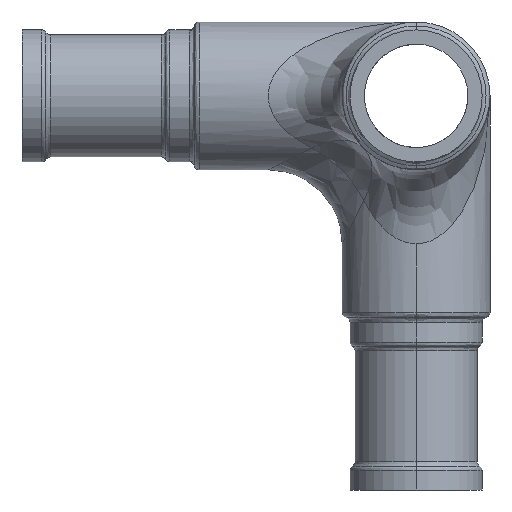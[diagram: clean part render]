
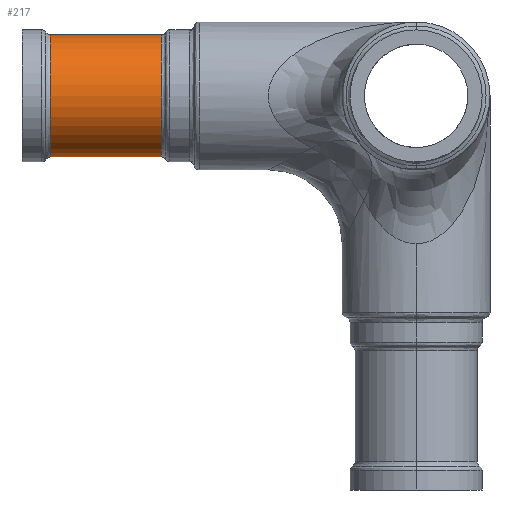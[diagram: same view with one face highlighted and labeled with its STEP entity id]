
A CAD part, left-side view. The second image highlights one B-rep face of the part: STEP entity #217.
In plain terms, the highlighted cylindrical face has radius 12.4 mm (diameter 24.8 mm), a partial arc.
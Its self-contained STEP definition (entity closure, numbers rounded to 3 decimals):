
#15 = ORIENTED_EDGE ( 'NONE', *, *, #2824, .T. ) ;
#22 = CARTESIAN_POINT ( 'NONE',  ( 0., 74.268, 32.6 ) ) ;
#60 = EDGE_CURVE ( 'NONE', #2698, #256, #2432, .T. ) ;
#215 = AXIS2_PLACEMENT_3D ( 'NONE', #2602, #2936, #1380 ) ;
#217 = ADVANCED_FACE ( 'NONE', ( #4170 ), #1353, .T. ) ;
#256 = VERTEX_POINT ( 'NONE', #22 ) ;
#380 = VECTOR ( 'NONE', #2028, 1000. ) ;
#465 = LINE ( 'NONE', #3128, #380 ) ;
#622 = VECTOR ( 'NONE', #2381, 1000. ) ;
#1093 = ORIENTED_EDGE ( 'NONE', *, *, #3378, .T. ) ;
#1121 = DIRECTION ( 'NONE',  ( 0., 0., 1. ) ) ;
#1199 = CIRCLE ( 'NONE', #3507, 12.4 ) ;
#1349 = CIRCLE ( 'NONE', #3502, 12.4 ) ;
#1353 = CYLINDRICAL_SURFACE ( 'NONE', #215, 12.4 ) ;
#1380 = DIRECTION ( 'NONE',  ( 0., 0., 1. ) ) ;
#1473 = DIRECTION ( 'NONE',  ( 0., -1., 0. ) ) ;
#1552 = CARTESIAN_POINT ( 'NONE',  ( 0., 80., 32.6 ) ) ;
#1620 = EDGE_CURVE ( 'NONE', #3653, #256, #1349, .T. ) ;
#1803 = ORIENTED_EDGE ( 'NONE', *, *, #60, .F. ) ;
#2028 = DIRECTION ( 'NONE',  ( 0., 1., 0. ) ) ;
#2381 = DIRECTION ( 'NONE',  ( 0., 1., 0. ) ) ;
#2432 = LINE ( 'NONE', #1552, #622 ) ;
#2602 = CARTESIAN_POINT ( 'NONE',  ( 0., 80., 45. ) ) ;
#2620 = EDGE_LOOP ( 'NONE', ( #1803, #1093, #15, #4507 ) ) ;
#2698 = VERTEX_POINT ( 'NONE', #4224 ) ;
#2824 = EDGE_CURVE ( 'NONE', #4594, #3653, #465, .T. ) ;
#2936 = DIRECTION ( 'NONE',  ( 0., 1., 0. ) ) ;
#3128 = CARTESIAN_POINT ( 'NONE',  ( 0., 80., 57.4 ) ) ;
#3378 = EDGE_CURVE ( 'NONE', #2698, #4594, #1199, .T. ) ;
#3502 = AXIS2_PLACEMENT_3D ( 'NONE', #3850, #1473, #1121 ) ;
#3507 = AXIS2_PLACEMENT_3D ( 'NONE', #4648, #3981, #4740 ) ;
#3653 = VERTEX_POINT ( 'NONE', #4854 ) ;
#3850 = CARTESIAN_POINT ( 'NONE',  ( 0., 74.268, 45. ) ) ;
#3981 = DIRECTION ( 'NONE',  ( 0., 1., 0. ) ) ;
#4170 = FACE_OUTER_BOUND ( 'NONE', #2620, .T. ) ;
#4224 = CARTESIAN_POINT ( 'NONE',  ( 0., 51.732, 32.6 ) ) ;
#4507 = ORIENTED_EDGE ( 'NONE', *, *, #1620, .T. ) ;
#4594 = VERTEX_POINT ( 'NONE', #4679 ) ;
#4648 = CARTESIAN_POINT ( 'NONE',  ( 0., 51.732, 45. ) ) ;
#4679 = CARTESIAN_POINT ( 'NONE',  ( 0., 51.732, 57.4 ) ) ;
#4740 = DIRECTION ( 'NONE',  ( 0., 0., 1. ) ) ;
#4854 = CARTESIAN_POINT ( 'NONE',  ( 0., 74.268, 57.4 ) ) ;
